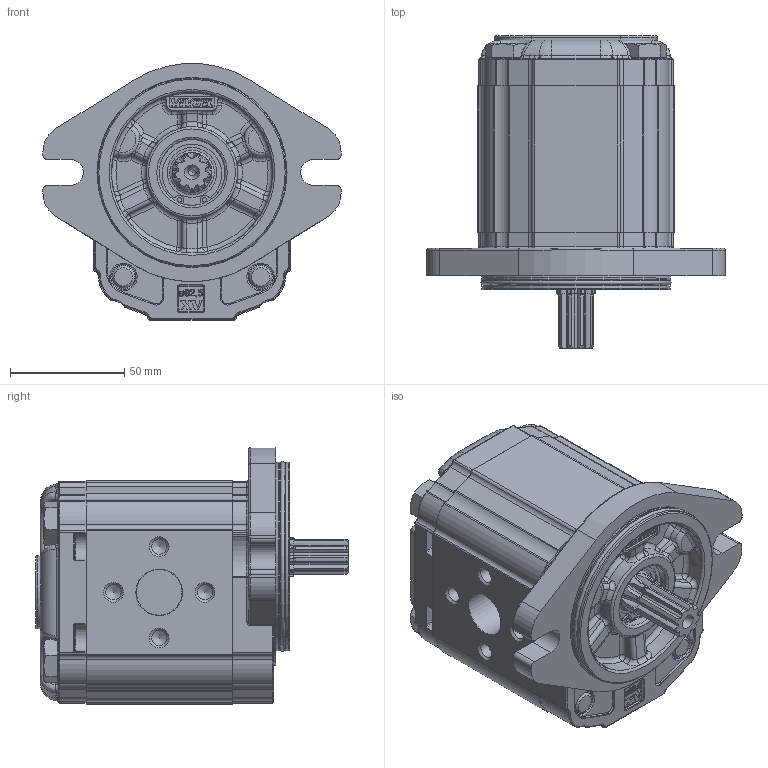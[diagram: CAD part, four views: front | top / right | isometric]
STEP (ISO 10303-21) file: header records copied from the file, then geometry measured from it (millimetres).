
FILE_DESCRIPTION(/* description */ ('Unknown'),/* implementation_level */ '2;1');
FILE_NAME(/* name */ 'X2R4931IPPE',/* time_stamp */ '2021-04-26T12:40:09+02:00',/* author */ ('Unknown'),/* organization */ ('Unknown'),/* preprocessor_version */ 'ST-DEVELOPER v16.7',/* originating_system */ 'Solid Edge',/* authorisation */ 'Unknown');
FILE_SCHEMA (('AUTOMOTIVE_DESIGN {1 0 10303 214 3 1 1}'));
Products named in the file (5): X2R4931IPPE; X2R31; 2I; X2PPH64; XR219-E
Assembly tree (4 placements, depth 2):
  X2R4931IPPE
    X2R31
    2I
    X2PPH64
    XR219-E
Bounding box: 130.38 x 136.7 x 112.3 mm (x, y, z)
Volume: 767664.2 mm3; surface area: 116036.2 mm2
Topology: 4 solids, 5 shells, 1569 faces, 3972 edges, 2480 vertices
Faces by surface type: plane 600, cylinder 443, bspline 210, torus 201, cone 89, sphere 26
Full cylindrical faces by diameter (mm): 2 x2, 6.647 x8, 11 x2, 11.445 x1, 11.5 x4, 16 x4, 17.42 x1, 17.48 x2, 18.724 x1, 20 x2, 20.595 x1, 21.741 x1, 25.834 x1, 28.56 x1, 28.57 x1, 28.8 x1, 30.4 x1, 79.6 x2, 82.5 x2
Entity records: 59389 total; most frequent: CARTESIAN_POINT 12975, ORIENTED_EDGE 7656, DIRECTION 7366, EDGE_CURVE 3828, AXIS2_PLACEMENT_3D 2727, VERTEX_POINT 2436, LINE 1912, VECTOR 1912
